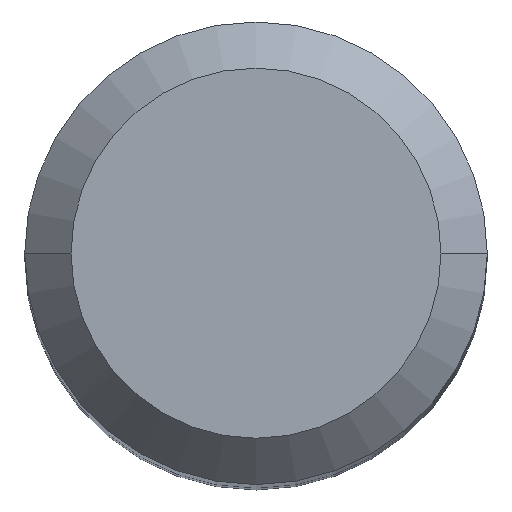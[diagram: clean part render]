
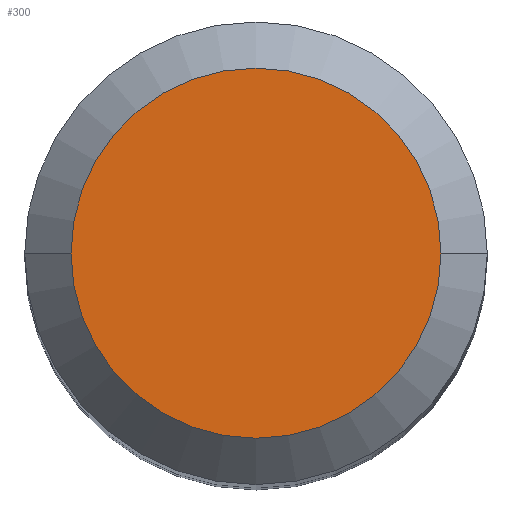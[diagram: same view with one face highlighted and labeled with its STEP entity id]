
A CAD part, top view. The second image highlights one B-rep face of the part: STEP entity #300.
In plain terms, the highlighted planar face has unit normal (0, 0, 1).
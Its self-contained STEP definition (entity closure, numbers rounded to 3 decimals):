
#15 = DIRECTION ( 'NONE',  ( -1., 0., 0. ) ) ;
#22 = ORIENTED_EDGE ( 'NONE', *, *, #120, .F. ) ;
#80 = CARTESIAN_POINT ( 'NONE',  ( 0., 7.2, 0. ) ) ;
#96 = VERTEX_POINT ( 'NONE', #348 ) ;
#112 = AXIS2_PLACEMENT_3D ( 'NONE', #130, #344, #15 ) ;
#120 = EDGE_CURVE ( 'NONE', #96, #291, #180, .T. ) ;
#130 = CARTESIAN_POINT ( 'NONE',  ( 0., 0., 0. ) ) ;
#143 = DIRECTION ( 'NONE',  ( 0., 0., -1. ) ) ;
#145 = CARTESIAN_POINT ( 'NONE',  ( 0., 0., 0. ) ) ;
#180 = CIRCLE ( 'NONE', #112, 7.2 ) ;
#210 = AXIS2_PLACEMENT_3D ( 'NONE', #80, #310, #398 ) ;
#213 = EDGE_CURVE ( 'NONE', #291, #96, #303, .T. ) ;
#214 = CARTESIAN_POINT ( 'NONE',  ( 7.2, 0., 0. ) ) ;
#270 = DIRECTION ( 'NONE',  ( -1., 0., 0. ) ) ;
#278 = AXIS2_PLACEMENT_3D ( 'NONE', #145, #143, #270 ) ;
#291 = VERTEX_POINT ( 'NONE', #214 ) ;
#300 = ADVANCED_FACE ( 'NONE', ( #368 ), #405, .T. ) ;
#303 = CIRCLE ( 'NONE', #278, 7.2 ) ;
#310 = DIRECTION ( 'NONE',  ( 0., 0., 1. ) ) ;
#322 = EDGE_LOOP ( 'NONE', ( #22, #358 ) ) ;
#344 = DIRECTION ( 'NONE',  ( 0., 0., -1. ) ) ;
#348 = CARTESIAN_POINT ( 'NONE',  ( -7.2, 0., 0. ) ) ;
#358 = ORIENTED_EDGE ( 'NONE', *, *, #213, .F. ) ;
#368 = FACE_OUTER_BOUND ( 'NONE', #322, .T. ) ;
#398 = DIRECTION ( 'NONE',  ( 1., 0., 0. ) ) ;
#405 = PLANE ( 'NONE',  #210 ) ;
